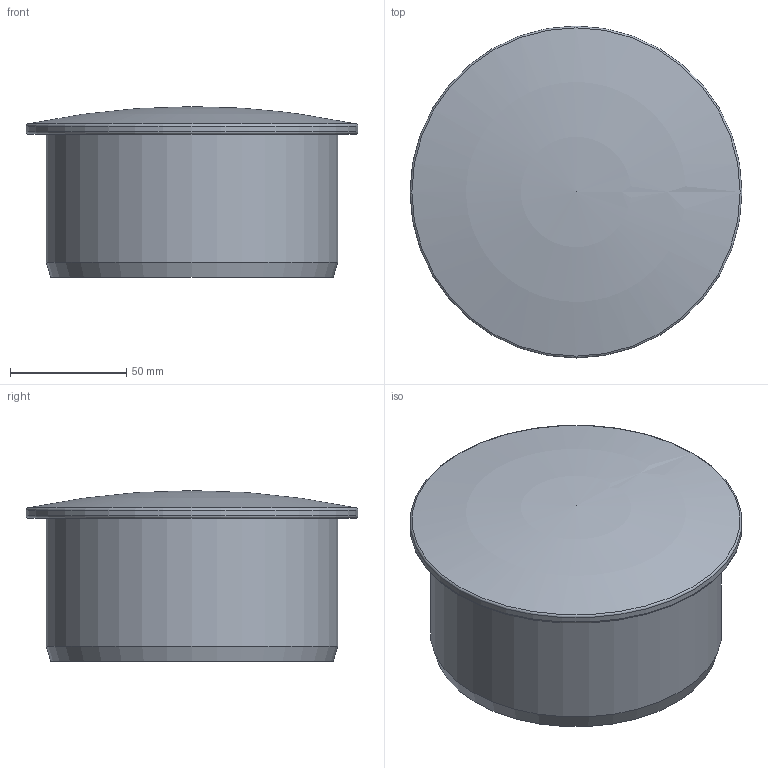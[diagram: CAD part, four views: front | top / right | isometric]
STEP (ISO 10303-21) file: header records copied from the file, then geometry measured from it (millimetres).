
FILE_DESCRIPTION(/* description */ (''),/* implementation_level */ '2;1');
FILE_NAME(/* name */ 'H:\Geberit-Teile\Export\Muffenstopfen ART\stp\390628.stp',/* time_stamp */ '2014-04-16T16:40:37+02:00',/* author */ ('seihe2'),/* organization */ (''),/* preprocessor_version */ 'ST-DEVELOPER v15.2',/* originating_system */ 'Autodesk Inventor 2014',/* authorisation */ '');
FILE_SCHEMA (('AUTOMOTIVE_DESIGN { 1 0 10303 214 3 1 1 }'));
Length unit declared in the file: millimetre
Products named in the file (1): 390628
Bounding box: 142.6 x 142.6 x 73.3 mm (x, y, z)
Volume: 169569.5 mm3; surface area: 80741.2 mm2
Topology: 1 solids, 1 shells, 10 faces, 21 edges, 13 vertices
Faces by surface type: cylinder 3, sphere 2, torus 2, plane 2, cone 1
Full cylindrical faces by diameter (mm): 116.8 x1, 125.2 x1, 142.6 x1
Entity records: 225 total; most frequent: DIRECTION 40, CARTESIAN_POINT 29, AXIS2_PLACEMENT_3D 20, EDGE_LOOP 18, ORIENTED_EDGE 18, STYLED_ITEM 11, FACE_OUTER_BOUND 10, ADVANCED_FACE 10
